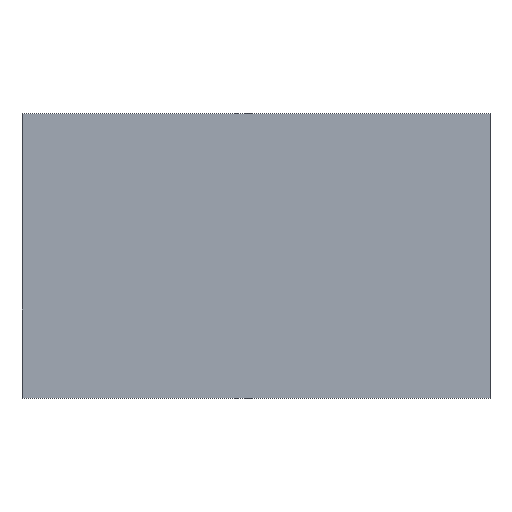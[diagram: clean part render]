
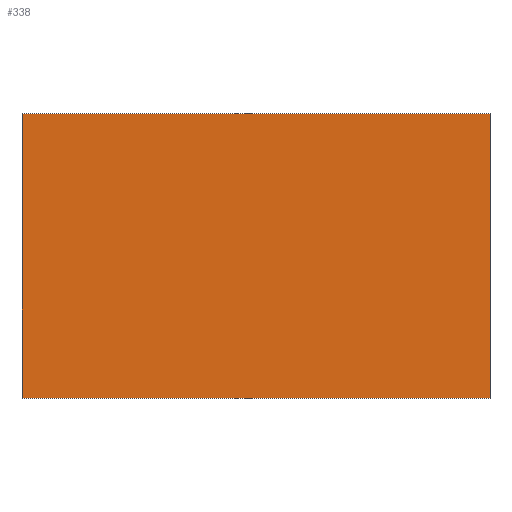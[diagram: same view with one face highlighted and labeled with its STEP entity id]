
A CAD part, top view. The second image highlights one B-rep face of the part: STEP entity #338.
In plain terms, the highlighted planar face has unit normal (0, 0, 1).
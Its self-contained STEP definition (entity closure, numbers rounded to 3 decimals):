
#24 = VERTEX_POINT('',#25);
#25 = CARTESIAN_POINT('',(-2.55,-1.55,1.1));
#32 = PLANE('',#33);
#33 = AXIS2_PLACEMENT_3D('',#34,#35,#36);
#34 = CARTESIAN_POINT('',(-2.55,-1.55,0.));
#35 = DIRECTION('',(1.,0.,0.));
#36 = DIRECTION('',(0.,0.,1.));
#44 = PLANE('',#45);
#45 = AXIS2_PLACEMENT_3D('',#46,#47,#48);
#46 = CARTESIAN_POINT('',(-2.55,-1.55,0.));
#47 = DIRECTION('',(0.,1.,0.));
#48 = DIRECTION('',(0.,0.,1.));
#85 = VERTEX_POINT('',#86);
#86 = CARTESIAN_POINT('',(-2.55,1.55,1.1));
#100 = PLANE('',#101);
#101 = AXIS2_PLACEMENT_3D('',#102,#103,#104);
#102 = CARTESIAN_POINT('',(-2.55,1.55,0.));
#103 = DIRECTION('',(0.,1.,0.));
#104 = DIRECTION('',(0.,0.,1.));
#112 = EDGE_CURVE('',#24,#85,#113,.T.);
#113 = SURFACE_CURVE('',#114,(#118,#125),.PCURVE_S1.);
#114 = LINE('',#115,#116);
#115 = CARTESIAN_POINT('',(-2.55,-1.55,1.1));
#116 = VECTOR('',#117,1.);
#117 = DIRECTION('',(0.,1.,0.));
#118 = PCURVE('',#32,#119);
#119 = DEFINITIONAL_REPRESENTATION('',(#120),#124);
#120 = LINE('',#121,#122);
#121 = CARTESIAN_POINT('',(1.1,0.));
#122 = VECTOR('',#123,1.);
#123 = DIRECTION('',(0.,-1.));
#124 = ( GEOMETRIC_REPRESENTATION_CONTEXT(2) 
PARAMETRIC_REPRESENTATION_CONTEXT() REPRESENTATION_CONTEXT('2D SPACE',''
  ) );
#125 = PCURVE('',#126,#131);
#126 = PLANE('',#127);
#127 = AXIS2_PLACEMENT_3D('',#128,#129,#130);
#128 = CARTESIAN_POINT('',(-2.55,-1.55,1.1));
#129 = DIRECTION('',(0.,0.,1.));
#130 = DIRECTION('',(1.,0.,0.));
#131 = DEFINITIONAL_REPRESENTATION('',(#132),#136);
#132 = LINE('',#133,#134);
#133 = CARTESIAN_POINT('',(0.,0.));
#134 = VECTOR('',#135,1.);
#135 = DIRECTION('',(0.,1.));
#136 = ( GEOMETRIC_REPRESENTATION_CONTEXT(2) 
PARAMETRIC_REPRESENTATION_CONTEXT() REPRESENTATION_CONTEXT('2D SPACE',''
  ) );
#144 = VERTEX_POINT('',#145);
#145 = CARTESIAN_POINT('',(2.55,-1.55,1.1));
#152 = PLANE('',#153);
#153 = AXIS2_PLACEMENT_3D('',#154,#155,#156);
#154 = CARTESIAN_POINT('',(2.55,-1.55,0.));
#155 = DIRECTION('',(1.,0.,0.));
#156 = DIRECTION('',(0.,0.,1.));
#195 = VERTEX_POINT('',#196);
#196 = CARTESIAN_POINT('',(2.55,1.55,1.1));
#217 = EDGE_CURVE('',#144,#195,#218,.T.);
#218 = SURFACE_CURVE('',#219,(#223,#230),.PCURVE_S1.);
#219 = LINE('',#220,#221);
#220 = CARTESIAN_POINT('',(2.55,-1.55,1.1));
#221 = VECTOR('',#222,1.);
#222 = DIRECTION('',(0.,1.,0.));
#223 = PCURVE('',#152,#224);
#224 = DEFINITIONAL_REPRESENTATION('',(#225),#229);
#225 = LINE('',#226,#227);
#226 = CARTESIAN_POINT('',(1.1,0.));
#227 = VECTOR('',#228,1.);
#228 = DIRECTION('',(0.,-1.));
#229 = ( GEOMETRIC_REPRESENTATION_CONTEXT(2) 
PARAMETRIC_REPRESENTATION_CONTEXT() REPRESENTATION_CONTEXT('2D SPACE',''
  ) );
#230 = PCURVE('',#126,#231);
#231 = DEFINITIONAL_REPRESENTATION('',(#232),#236);
#232 = LINE('',#233,#234);
#233 = CARTESIAN_POINT('',(5.1,0.));
#234 = VECTOR('',#235,1.);
#235 = DIRECTION('',(0.,1.));
#236 = ( GEOMETRIC_REPRESENTATION_CONTEXT(2) 
PARAMETRIC_REPRESENTATION_CONTEXT() REPRESENTATION_CONTEXT('2D SPACE',''
  ) );
#263 = EDGE_CURVE('',#24,#144,#264,.T.);
#264 = SURFACE_CURVE('',#265,(#269,#276),.PCURVE_S1.);
#265 = LINE('',#266,#267);
#266 = CARTESIAN_POINT('',(-2.55,-1.55,1.1));
#267 = VECTOR('',#268,1.);
#268 = DIRECTION('',(1.,0.,0.));
#269 = PCURVE('',#44,#270);
#270 = DEFINITIONAL_REPRESENTATION('',(#271),#275);
#271 = LINE('',#272,#273);
#272 = CARTESIAN_POINT('',(1.1,0.));
#273 = VECTOR('',#274,1.);
#274 = DIRECTION('',(0.,1.));
#275 = ( GEOMETRIC_REPRESENTATION_CONTEXT(2) 
PARAMETRIC_REPRESENTATION_CONTEXT() REPRESENTATION_CONTEXT('2D SPACE',''
  ) );
#276 = PCURVE('',#126,#277);
#277 = DEFINITIONAL_REPRESENTATION('',(#278),#282);
#278 = LINE('',#279,#280);
#279 = CARTESIAN_POINT('',(0.,0.));
#280 = VECTOR('',#281,1.);
#281 = DIRECTION('',(1.,0.));
#282 = ( GEOMETRIC_REPRESENTATION_CONTEXT(2) 
PARAMETRIC_REPRESENTATION_CONTEXT() REPRESENTATION_CONTEXT('2D SPACE',''
  ) );
#310 = EDGE_CURVE('',#85,#195,#311,.T.);
#311 = SURFACE_CURVE('',#312,(#316,#323),.PCURVE_S1.);
#312 = LINE('',#313,#314);
#313 = CARTESIAN_POINT('',(-2.55,1.55,1.1));
#314 = VECTOR('',#315,1.);
#315 = DIRECTION('',(1.,0.,0.));
#316 = PCURVE('',#100,#317);
#317 = DEFINITIONAL_REPRESENTATION('',(#318),#322);
#318 = LINE('',#319,#320);
#319 = CARTESIAN_POINT('',(1.1,0.));
#320 = VECTOR('',#321,1.);
#321 = DIRECTION('',(0.,1.));
#322 = ( GEOMETRIC_REPRESENTATION_CONTEXT(2) 
PARAMETRIC_REPRESENTATION_CONTEXT() REPRESENTATION_CONTEXT('2D SPACE',''
  ) );
#323 = PCURVE('',#126,#324);
#324 = DEFINITIONAL_REPRESENTATION('',(#325),#329);
#325 = LINE('',#326,#327);
#326 = CARTESIAN_POINT('',(0.,3.1));
#327 = VECTOR('',#328,1.);
#328 = DIRECTION('',(1.,0.));
#329 = ( GEOMETRIC_REPRESENTATION_CONTEXT(2) 
PARAMETRIC_REPRESENTATION_CONTEXT() REPRESENTATION_CONTEXT('2D SPACE',''
  ) );
#338 = ADVANCED_FACE('',(#339),#126,.T.);
#339 = FACE_BOUND('',#340,.T.);
#340 = EDGE_LOOP('',(#341,#342,#343,#344));
#341 = ORIENTED_EDGE('',*,*,#112,.F.);
#342 = ORIENTED_EDGE('',*,*,#263,.T.);
#343 = ORIENTED_EDGE('',*,*,#217,.T.);
#344 = ORIENTED_EDGE('',*,*,#310,.F.);
